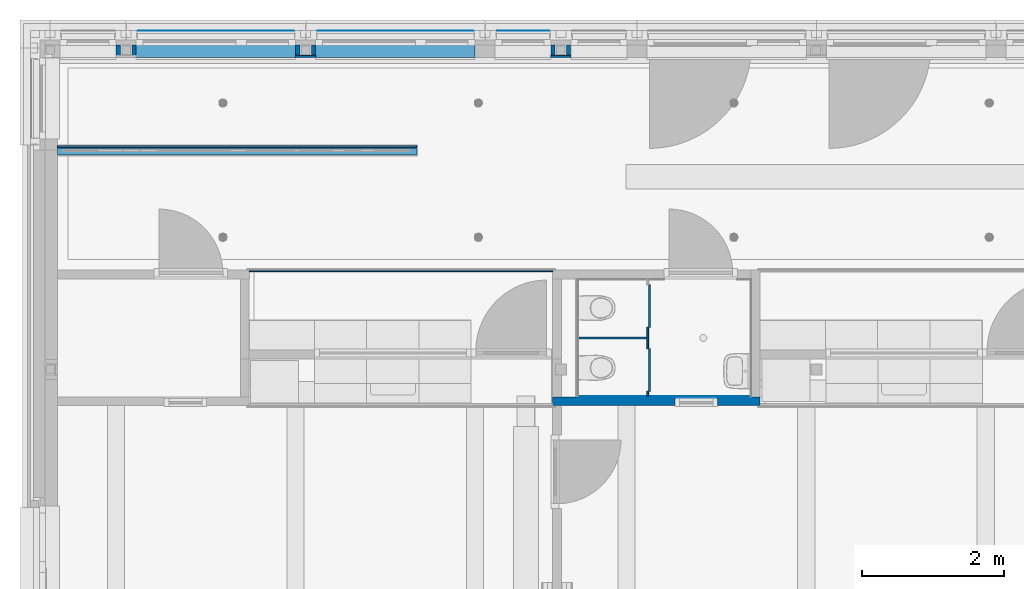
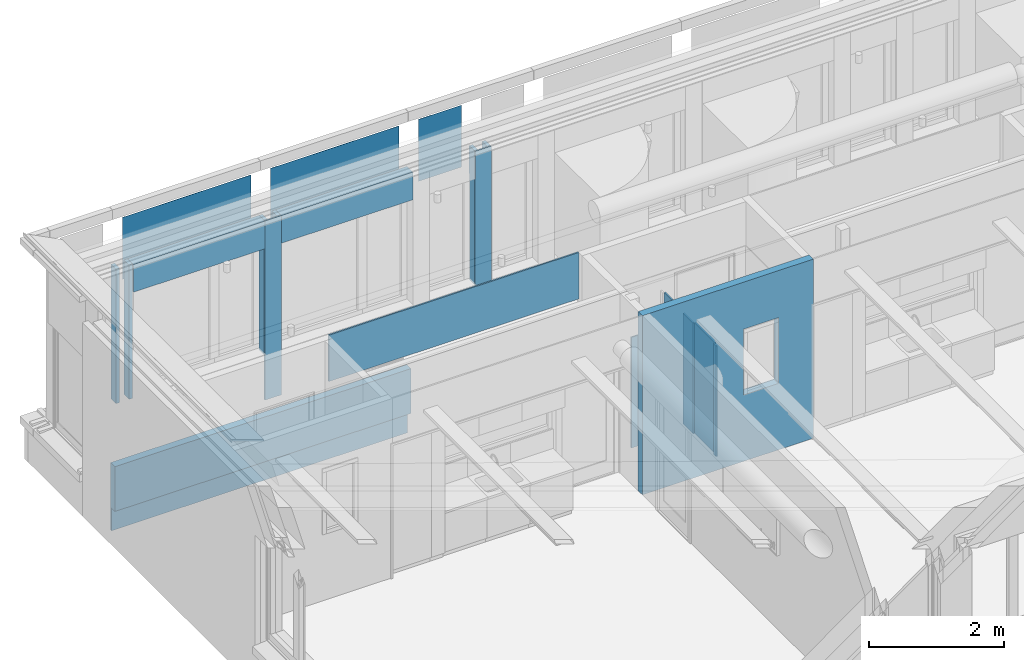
# One storey, part 46 of 128: 23 walls, 23 openings.
"""IFC2X3 building model written with IfcOpenShell, lengths in millimetres."""

from ifc_helpers import new_model, entity, si_unit, converted_unit, derived_unit, direction, frame, frame_2d, origin, origin_2d_with_axis, place, context, subcontext, project, spatial, polyline, rectangle, extrude, clip, bounded_halfspace, material, layer, layer_set, layer_usage, type_object, element, save


model = new_model("IFC2X3")

# Units and contexts
model_context = context("Model", 3, precision=0.01, world=origin(), true_north=direction((6.123031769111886e-17, 1.0)))
body_context = subcontext(model_context, "Body", "Model", "MODEL_VIEW")
ifc_project = project(units=[si_unit("LENGTHUNIT", "METRE", prefix="MILLI"), si_unit("AREAUNIT", "SQUARE_METRE"), si_unit("VOLUMEUNIT", "CUBIC_METRE"), converted_unit("PLANEANGLEUNIT", "DEGREE", entity("IfcRatioMeasure", 0.017453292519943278), si_unit("PLANEANGLEUNIT", "RADIAN"), dimensions=[0, 0, 0, 0, 0, 0, 0]), si_unit("MASSUNIT", "GRAM", prefix="KILO"), derived_unit("MASSDENSITYUNIT", [(si_unit("MASSUNIT", "GRAM", prefix="KILO"), 1), (si_unit("LENGTHUNIT", "METRE"), -3)]), derived_unit("IONCONCENTRATIONUNIT", [(si_unit("MASSUNIT", "GRAM", prefix="KILO"), 1), (si_unit("LENGTHUNIT", "METRE"), -3)]), derived_unit("MOMENTOFINERTIAUNIT", [(si_unit("LENGTHUNIT", "METRE"), 4)]), si_unit("TIMEUNIT", "SECOND"), si_unit("FREQUENCYUNIT", "HERTZ"), si_unit("THERMODYNAMICTEMPERATUREUNIT", "DEGREE_CELSIUS"), derived_unit("THERMALTRANSMITTANCEUNIT", [(si_unit("MASSUNIT", "GRAM", prefix="KILO"), 1), (si_unit("THERMODYNAMICTEMPERATUREUNIT", "KELVIN"), -1), (si_unit("TIMEUNIT", "SECOND"), -3)]), derived_unit("THERMALCONDUCTANCEUNIT", [(si_unit("MASSUNIT", "GRAM", prefix="KILO"), 1), (si_unit("THERMODYNAMICTEMPERATUREUNIT", "KELVIN"), -1), (si_unit("TIMEUNIT", "SECOND"), -3), (si_unit("LENGTHUNIT", "METRE"), 1)]), derived_unit("VOLUMETRICFLOWRATEUNIT", [(si_unit("LENGTHUNIT", "METRE"), 3), (si_unit("TIMEUNIT", "SECOND"), -1)]), derived_unit("MASSFLOWRATEUNIT", [(si_unit("MASSUNIT", "GRAM", prefix="KILO"), 1), (si_unit("TIMEUNIT", "SECOND"), -1)]), derived_unit("ROTATIONALFREQUENCYUNIT", [(si_unit("TIMEUNIT", "SECOND"), -1)]), si_unit("ELECTRICCURRENTUNIT", "AMPERE"), si_unit("ELECTRICVOLTAGEUNIT", "VOLT"), si_unit("POWERUNIT", "WATT"), si_unit("FORCEUNIT", "NEWTON", prefix="KILO"), si_unit("ILLUMINANCEUNIT", "LUX"), si_unit("LUMINOUSFLUXUNIT", "LUMEN"), si_unit("LUMINOUSINTENSITYUNIT", "CANDELA"), derived_unit("USERDEFINED", [(si_unit("MASSUNIT", "GRAM", prefix="KILO"), -1), (si_unit("LENGTHUNIT", "METRE"), -2), (si_unit("TIMEUNIT", "SECOND"), 3), (si_unit("LUMINOUSFLUXUNIT", "LUMEN"), 1)]), derived_unit("USERDEFINED", [(si_unit("MASSUNIT", "GRAM", prefix="KILO"), 1), (si_unit("TIMEUNIT", "SECOND"), -3), (si_unit("LENGTHUNIT", "METRE"), 3), (si_unit("ELECTRICCURRENTUNIT", "AMPERE"), -2)]), derived_unit("SOUNDPOWERUNIT", [(si_unit("MASSUNIT", "GRAM", prefix="KILO"), 1), (si_unit("TIMEUNIT", "SECOND"), -3), (si_unit("LENGTHUNIT", "METRE"), 2)]), derived_unit("SOUNDPRESSUREUNIT", [(si_unit("MASSUNIT", "GRAM", prefix="KILO"), 1), (si_unit("LENGTHUNIT", "METRE"), -1), (si_unit("TIMEUNIT", "SECOND"), -2)]), derived_unit("LINEARVELOCITYUNIT", [(si_unit("LENGTHUNIT", "METRE"), 1), (si_unit("TIMEUNIT", "SECOND"), -1)]), si_unit("PRESSUREUNIT", "PASCAL"), derived_unit("USERDEFINED", [(si_unit("MASSUNIT", "GRAM", prefix="KILO"), 1), (si_unit("LENGTHUNIT", "METRE"), -2), (si_unit("TIMEUNIT", "SECOND"), -2)]), derived_unit("LINEARFORCEUNIT", [(si_unit("MASSUNIT", "GRAM", prefix="KILO"), 1), (si_unit("TIMEUNIT", "SECOND"), -2)]), derived_unit("PLANARFORCEUNIT", [(si_unit("MASSUNIT", "GRAM", prefix="KILO"), 1), (si_unit("LENGTHUNIT", "METRE"), -1), (si_unit("TIMEUNIT", "SECOND"), -2)]), derived_unit("SPECIFICHEATCAPACITYUNIT", [(si_unit("THERMODYNAMICTEMPERATUREUNIT", "KELVIN"), -1), (si_unit("LENGTHUNIT", "METRE"), 2), (si_unit("TIMEUNIT", "SECOND"), -2)]), derived_unit("HEATINGVALUEUNIT", [(si_unit("LENGTHUNIT", "METRE"), 2), (si_unit("TIMEUNIT", "SECOND"), -2)]), derived_unit("VAPORPERMEABILITYUNIT", [(si_unit("LENGTHUNIT", "METRE"), -1), (si_unit("TIMEUNIT", "SECOND"), 1)]), derived_unit("DYNAMICVISCOSITYUNIT", [(si_unit("MASSUNIT", "GRAM", prefix="KILO"), 1), (si_unit("TIMEUNIT", "SECOND"), -1), (si_unit("LENGTHUNIT", "METRE"), -1)]), derived_unit("THERMALEXPANSIONCOEFFICIENTUNIT", [(si_unit("THERMODYNAMICTEMPERATUREUNIT", "KELVIN"), -1)]), derived_unit("MODULUSOFELASTICITYUNIT", [(si_unit("MASSUNIT", "GRAM", prefix="KILO"), 1), (si_unit("LENGTHUNIT", "METRE"), -1), (si_unit("TIMEUNIT", "SECOND"), -2)]), derived_unit("ISOTHERMALMOISTURECAPACITYUNIT", [(si_unit("LENGTHUNIT", "METRE"), 3), (si_unit("MASSUNIT", "GRAM", prefix="KILO"), -1)]), derived_unit("MOISTUREDIFFUSIVITYUNIT", [(si_unit("TIMEUNIT", "SECOND"), -1), (si_unit("LENGTHUNIT", "METRE"), 2)])], contexts=[model_context])

# Site, building, storey
site_placement = place(None, frame((0.0, 300.0, 0.0)))
site = spatial("IfcSite", under=ifc_project, at=site_placement, Name="<Kadastrale nummers>", CompositionType="ELEMENT")
building_placement = place(site_placement, origin())
building = spatial("IfcBuilding", under=site, at=building_placement, CompositionType="ELEMENT")
storey_placement = place(building_placement, frame((0.0, 0.0, 3560.0000331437)))
storey = spatial("IfcBuildingStorey", under=building, at=storey_placement, Name="01 eerste verdieping", CompositionType="ELEMENT", Elevation=3560.0000331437)

# Wall
ifc_material_1 = material(Name="ISR_Gips")
ifc_layer_1 = layer(ifc_material_1, 1.0)
ifc_material_2 = material(Name="ISR_Binnenwand")
ifc_layer_2 = layer(ifc_material_2, 123.0)
ifc_layer_3 = layer(ifc_material_1, 1.0)
ifc_layer_set_1 = layer_set([ifc_layer_1, ifc_layer_2, ifc_layer_3], Name="Basic Wall:22_DAT_binnenwand_125")
ifc_layer_usage_1 = layer_usage(ifc_layer_set_1, "AXIS2", "NEGATIVE", 62.50000000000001)
wall_type_1 = type_object("IfcWallType", Name="Basic Wall:22_DAT_binnenwand_125", PredefinedType="STANDARD", material=ifc_layer_set_1)
wall_1_placement = place(storey_placement, frame((3100.0, 48387.49999999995, 90.00000187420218)))
element("IfcWallStandardCase", 1, at=wall_1_placement, inside=storey, type_object=wall_type_1, material=ifc_layer_usage_1, Name="Basic Wall:22_DAT_binnenwand_125", ObjectType="Basic Wall:22_DAT_binnenwand_125", context=body_context, shape_type="SweptSolid", body=[
    extrude(rectangle(XDim=5065.000000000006, YDim=125.00000000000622, at=frame_2d((2532.500000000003, -6.039613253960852e-14), x_axis=(-1.0, 0.0))), origin(), (0.0, 0.0, 1.0), 809.9999649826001),
])

# Wall, opening
ifc_layer_usage_2 = layer_usage(ifc_layer_set_1, "AXIS2", "POSITIVE", -62.50000000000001)
wall_2_placement = place(storey_placement, frame((10080.0, 44852.500000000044, 90.00000187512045)))
wall_2 = element("IfcWallStandardCase", 2, at=wall_2_placement, inside=storey, type_object=wall_type_1, material=ifc_layer_usage_2, Name="Basic Wall:22_DAT_binnenwand_125", ObjectType="Basic Wall:22_DAT_binnenwand_125", context=body_context, shape_type="SweptSolid", body=[
    extrude(rectangle(XDim=2924.9999999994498, YDim=125.00000000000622, at=frame_2d((1462.4999999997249, -1.0302869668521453e-12), x_axis=(-1.0, 0.0))), origin(), (0.0, 0.0, 1.0), 3240.0000290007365),
])
opening_1_placement = place(wall_2_placement, origin())
element("IfcOpeningElement", 3, at=opening_1_placement, cuts=wall_2, Name="Basic Wall:22_DAT_binnenwand_125", ObjectType="Opening", context=body_context, shape_type="SweptSolid", body=[
    extrude(rectangle(XDim=1190.0000000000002, YDim=599.9999999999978, at=frame_2d((0.0, 0.0), x_axis=(0.0, 1.0))), frame((2025.0, -214.89999999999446, 1795.0), z_axis=(0.0, 1.0, 0.0), x_axis=(-1.0, 0.0, 0.0)), (0.0, 0.0, 1.0), 429.79999999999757),
])

# Walls
ifc_layer_4 = layer(ifc_material_1, 1.0)
ifc_layer_5 = layer(ifc_material_2, 23.0)
ifc_layer_6 = layer(ifc_material_1, 1.0)
ifc_layer_set_2 = layer_set([ifc_layer_4, ifc_layer_5, ifc_layer_6], Name="Basic Wall:22_DAT_binnenwand_25")
ifc_layer_usage_3 = layer_usage(ifc_layer_set_2, "AXIS2", "NEGATIVE", 12.499999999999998)
wall_type_2 = type_object("IfcWallType", Name="Basic Wall:22_DAT_binnenwand_25", PredefinedType="STANDARD", material=ifc_layer_set_2)
wall_3_placement = place(storey_placement, frame((5807.500000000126, 46687.49999999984, 2490.000024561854)))
element("IfcWallStandardCase", 4, at=wall_3_placement, inside=storey, type_object=wall_type_2, material=ifc_layer_usage_3, Name="Basic Wall:22_DAT_binnenwand_25", ObjectType="Basic Wall:22_DAT_binnenwand_25", context=body_context, shape_type="SweptSolid", body=[
    extrude(rectangle(XDim=4272.50000000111, YDim=24.999999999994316, at=frame_2d((2136.250000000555, -6.217248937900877e-14), x_axis=(-1.0, 0.0))), origin(), (0.0, 0.0, 1.0), 839.9999773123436),
])
ifc_layer_usage_4 = layer_usage(ifc_layer_set_2, "AXIS2", "POSITIVE", -12.499999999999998)
wall_4_placement = place(storey_placement, frame((3100.0, 48437.499999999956, -320.00000414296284)))
element("IfcWallStandardCase", 5, at=wall_4_placement, inside=storey, type_object=wall_type_2, material=ifc_layer_usage_4, Name="Basic Wall:22_DAT_binnenwand_25", ObjectType="Basic Wall:22_DAT_binnenwand_25", context=body_context, shape_type="SweptSolid", body=[
    extrude(rectangle(XDim=5065.0000000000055, YDim=24.999999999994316, at=frame_2d((2532.5000000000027, 6.128431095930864e-14), x_axis=(-1.0, 0.0))), origin(), (0.0, 0.0, 1.0), 410.0000060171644),
])
wall_5_placement = place(storey_placement, frame((10333.747222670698, 49712.499999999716, 90.00000187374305), z_axis=(0.0, 0.0, 1.0), x_axis=(-1.0, 0.0, 0.0)))
element("IfcWallStandardCase", 6, at=wall_5_placement, inside=storey, type_object=wall_type_2, material=ifc_layer_usage_4, Name="Basic Wall:22_DAT_binnenwand_25", ObjectType="Basic Wall:22_DAT_binnenwand_25", context=body_context, shape_type="Clipping", body=[
    clip(clip(extrude(rectangle(XDim=279.99999999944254, YDim=24.999999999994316, at=frame_2d((139.9999999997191, 0.0), x_axis=(-1.0, 0.0))), origin(), (0.0, 0.0, 1.0), 3240.000000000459), bounded_halfspace(frame((273.7472226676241, 12.499999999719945, 2739.9999649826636), z_axis=(0.0, 0.0, -1.0), x_axis=(0.0, -1.0, 0.0)), True, frame((273.7472226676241, 12.499999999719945, 2739.9999649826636), z_axis=(0.0, 0.0, -1.0), x_axis=(0.0, -1.0, 0.0)), polyline([(0.0, 0.0), (0.0, -6.252777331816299), (25.0, -6.2527773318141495), (25.0, 0.0), (0.0, 0.0)]))), bounded_halfspace(frame((273.74722266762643, -12.500000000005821, 2739.9999649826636), z_axis=(-1.0, 0.0, 0.0), x_axis=(0.0, -1.0, 0.0)), True, frame((273.74722266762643, -12.500000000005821, 2739.9999649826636), z_axis=(-1.0, 0.0, 0.0), x_axis=(0.0, -1.0, 0.0)), polyline([(0.0, 0.0), (0.0, 500.0000350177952), (-25.0, 500.0000350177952), (-25.0, 0.0), (0.0, 0.0)]))),
])
wall_6_placement = place(storey_placement, frame((6740.0, 49712.49999999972, 90.00000187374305), z_axis=(0.0, 0.0, 1.0), x_axis=(-1.0, 0.0, 0.0)))
element("IfcWallStandardCase", 7, at=wall_6_placement, inside=storey, type_object=wall_type_2, material=ifc_layer_usage_4, Name="Basic Wall:22_DAT_binnenwand_25", ObjectType="Basic Wall:22_DAT_binnenwand_25", context=body_context, shape_type="SweptSolid", body=[
    extrude(rectangle(XDim=279.9999999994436, YDim=24.999999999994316, at=frame_2d((139.9999999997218, 0.0), x_axis=(-1.0, 0.0))), origin(), (0.0, 0.0, 1.0), 3240.000000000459),
])
ifc_material_3 = material(Name="ISR_Kunststof_grijs")
ifc_layer_7 = layer(ifc_material_3, 25.0)
ifc_layer_set_3 = layer_set([ifc_layer_7], Name="Basic Wall:43_DAT_sanitairewand")
ifc_layer_usage_5 = layer_usage(ifc_layer_set_3, "AXIS2", "POSITIVE", -12.500000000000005)
wall_type_3 = type_object("IfcWallType", Name="Basic Wall:43_DAT_sanitairewand", PredefinedType="STANDARD", material=ifc_layer_set_3)
wall_7_placement = place(storey_placement, frame((10435.0, 45745.0, 240.00000187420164)))
element("IfcWallStandardCase", 8, at=wall_7_placement, inside=storey, type_object=wall_type_3, material=ifc_layer_usage_5, Name="Basic Wall:43_DAT_sanitairewand", ObjectType="Basic Wall:43_DAT_sanitairewand", context=body_context, shape_type="SweptSolid", body=[
    extrude(rectangle(XDim=975.0000000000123, YDim=24.999999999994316, at=frame_2d((487.50000000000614, -6.465938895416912e-13), x_axis=(-1.0, 0.0))), origin(), (0.0, 0.0, 1.0), 2000.0000000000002),
])
wall_8_placement = place(storey_placement, frame((11447.4999999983, 45595.0, 240.00000187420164), z_axis=(0.0, 0.0, 1.0), x_axis=(0.0, -1.0, 0.0)))
element("IfcWallStandardCase", 9, at=wall_8_placement, inside=storey, type_object=wall_type_3, material=ifc_layer_usage_5, Name="Basic Wall:43_DAT_sanitairewand", ObjectType="Basic Wall:43_DAT_sanitairewand", context=body_context, shape_type="SweptSolid", body=[
    extrude(rectangle(XDim=600.0000000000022, YDim=24.99999999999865, at=frame_2d((300.0000000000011, -3.6148861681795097e-13), x_axis=(-1.0, 0.0))), origin(), (0.0, 0.0, 1.0), 2000.0000000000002),
])
wall_9_placement = place(storey_placement, frame((11422.499999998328, 45895.0, 240.00000187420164), z_axis=(0.0, 0.0, 1.0), x_axis=(0.0, -1.0, 0.0)))
element("IfcWallStandardCase", 10, at=wall_9_placement, inside=storey, type_object=wall_type_3, material=ifc_layer_usage_5, Name="Basic Wall:43_DAT_sanitairewand", ObjectType="Basic Wall:43_DAT_sanitairewand", context=body_context, shape_type="SweptSolid", body=[
    extrude(rectangle(XDim=300.0000000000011, YDim=24.999999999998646, at=frame_2d((150.00000000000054, 3.6060043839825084e-13), x_axis=(-1.0, 0.0))), origin(), (0.0, 0.0, 1.0), 2000.0000000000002),
])
wall_10_placement = place(storey_placement, frame((11422.499999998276, 44995.0, 240.00000187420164), z_axis=(0.0, 0.0, 1.0), x_axis=(0.0, -1.0, 0.0)))
element("IfcWallStandardCase", 11, at=wall_10_placement, inside=storey, type_object=wall_type_3, material=ifc_layer_usage_5, Name="Basic Wall:43_DAT_sanitairewand", ObjectType="Basic Wall:43_DAT_sanitairewand", context=body_context, shape_type="SweptSolid", body=[
    extrude(rectangle(XDim=79.99999999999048, YDim=24.99999999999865, at=frame_2d((39.99999999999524, 7.291944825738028e-13), x_axis=(-1.0, 0.0))), origin(), (0.0, 0.0, 1.0), 2000.0000000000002),
])
wall_11_placement = place(storey_placement, frame((11447.499999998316, 46495.0, 240.00000187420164), z_axis=(0.0, 0.0, 1.0), x_axis=(0.0, -1.0, 0.0)))
element("IfcWallStandardCase", 12, at=wall_11_placement, inside=storey, type_object=wall_type_3, material=ifc_layer_usage_5, Name="Basic Wall:43_DAT_sanitairewand", ObjectType="Basic Wall:43_DAT_sanitairewand", context=body_context, shape_type="SweptSolid", body=[
    extrude(rectangle(XDim=600.0000000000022, YDim=24.99999999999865, at=frame_2d((300.0000000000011, -3.6148861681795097e-13), x_axis=(-1.0, 0.0))), origin(), (0.0, 0.0, 1.0), 2000.0000000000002),
])
ifc_material_4 = material(Name="STAAL_RAL 7006")
ifc_layer_8 = layer(ifc_material_4, 2.0)
ifc_layer_set_4 = layer_set([ifc_layer_8], Name="Basic Wall:21_DAT_zetwerk_2")
ifc_layer_usage_6 = layer_usage(ifc_layer_set_4, "AXIS2", "NEGATIVE", 1.000000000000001)
wall_type_4 = type_object("IfcWallType", Name="Basic Wall:21_DAT_zetwerk_2", PredefinedType="STANDARD", material=ifc_layer_set_4)
for number, where, name in (
    (13, (6768.0, 50071.0, 2829.9999668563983), "Basic Wall:21_DAT_zetwerk_2"),
    (14, (4238.0, 50071.0, 2829.9999668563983), "Basic Wall:21_DAT_zetwerk_2"),
):
    element("IfcWallStandardCase", number, at=place(storey_placement, frame(where)), inside=storey, type_object=wall_type_4, material=ifc_layer_usage_6, Name=name, ObjectType="Basic Wall:21_DAT_zetwerk_2", context=body_context, shape_type="SweptSolid", body=[
        extrude(rectangle(XDim=2194.0000000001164, YDim=1.9999999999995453, at=frame_2d((1097.0000000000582, 1.4378498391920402e-12), x_axis=(-1.0, 0.0))), origin(), (0.0, 0.0, 1.0), 1120.0000000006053),
    ])
wall_12_placement = place(storey_placement, frame((9298.0, 50071.0, 2829.9999668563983)))
element("IfcWallStandardCase", 15, at=wall_12_placement, inside=storey, type_object=wall_type_4, material=ifc_layer_usage_6, Name="Basic Wall:21_DAT_zetwerk_2", ObjectType="Basic Wall:21_DAT_zetwerk_2", context=body_context, shape_type="SweptSolid", body=[
    extrude(rectangle(XDim=733.9999999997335, YDim=1.9999999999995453, at=frame_2d((366.99999999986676, 0.0), x_axis=(-1.0, 0.0))), origin(), (0.0, 0.0, 1.0), 1120.0000000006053),
])
ifc_layer_9 = layer(ifc_material_1, 12.5)
ifc_layer_10 = layer(ifc_material_1, 12.5)
ifc_material_5 = material(Name="ISR_Dak_isolatie(198)")
ifc_layer_11 = layer(ifc_material_5, 140.0)
ifc_material_6 = material(Name="ISR_Multiplex")
ifc_layer_12 = layer(ifc_material_6, 10.0)
ifc_layer_set_5 = layer_set([ifc_layer_9, ifc_layer_10, ifc_layer_11, ifc_layer_12], Name="Basic Wall:21_DAT_Hekwerk 175")
ifc_layer_usage_7 = layer_usage(ifc_layer_set_5, "AXIS2", "POSITIVE", -87.5)
wall_type_5 = type_object("IfcWallType", Name="Basic Wall:21_DAT_Hekwerk 175", PredefinedType="STANDARD", material=ifc_layer_set_5)
wall_13_placement = place(storey_placement, frame((6740.0, 49787.50000000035, 2830.0)))
element("IfcWallStandardCase", 16, at=wall_13_placement, inside=storey, type_object=wall_type_5, material=ifc_layer_usage_7, Name="Basic Wall:21_DAT_Hekwerk 175", ObjectType="Basic Wall:21_DAT_Hekwerk 175", context=body_context, shape_type="SweptSolid", body=[
    extrude(rectangle(XDim=2249.99999999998, YDim=174.99999999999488, at=frame_2d((1124.99999999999, 1.5702994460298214e-12), x_axis=(-1.0, 0.0))), origin(), (0.0, 0.0, 1.0), 500.00003087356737),
])
wall_14_placement = place(storey_placement, frame((4210.0, 49787.50000000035, 2830.0)))
element("IfcWallStandardCase", 17, at=wall_14_placement, inside=storey, type_object=wall_type_5, material=ifc_layer_usage_7, Name="Basic Wall:21_DAT_Hekwerk 175", ObjectType="Basic Wall:21_DAT_Hekwerk 175", context=body_context, shape_type="SweptSolid", body=[
    extrude(rectangle(XDim=2249.9999999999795, YDim=174.99999999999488, at=frame_2d((1124.9999999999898, 1.5702994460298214e-12), x_axis=(-1.0, 0.0))), origin(), (0.0, 0.0, 1.0), 500.00003087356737),
])

# Wall, opening
ifc_material_7 = material(Name="ISR_Tegels_grijs_150x150")
ifc_layer_13 = layer(ifc_material_7, 10.0)
ifc_layer_set_6 = layer_set([ifc_layer_13], Name="Basic Wall:43_DAT_Wandtegelwerk")
ifc_layer_usage_8 = layer_usage(ifc_layer_set_6, "AXIS2", "POSITIVE", -5.0)
wall_type_6 = type_object("IfcWallType", Name="Basic Wall:43_DAT_Wandtegelwerk", PredefinedType="STANDARD", material=ifc_layer_set_6)
wall_15_placement = place(storey_placement, frame((12870.0, 44920.0, 90.00000187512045), z_axis=(0.0, 0.0, 1.0), x_axis=(-1.0, 0.0, 0.0)))
wall_15 = element("IfcWallStandardCase", 18, at=wall_15_placement, inside=storey, type_object=wall_type_6, material=ifc_layer_usage_8, Name="Basic Wall:43_DAT_Wandtegelwerk", ObjectType="Basic Wall:43_DAT_Wandtegelwerk", context=body_context, shape_type="SweptSolid", body=[
    extrude(rectangle(XDim=2435.0000000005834, YDim=9.999999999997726, at=frame_2d((1217.5000000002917, 1.7155166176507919e-12), x_axis=(-1.0, 0.0))), origin(), (0.0, 0.0, 1.0), 2450.0000226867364),
])
opening_2_placement = place(wall_15_placement, origin())
element("IfcOpeningElement", 19, at=opening_2_placement, cuts=wall_15, Name="Basic Wall:43_DAT_Wandtegelwerk", ObjectType="Opening", context=body_context, shape_type="SweptSolid", body=[
    extrude(rectangle(XDim=1190.0000000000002, YDim=599.9999999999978, at=origin_2d_with_axis()), frame((765.0, -157.40000000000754, 1795.0), z_axis=(0.0, 1.0, 0.0), x_axis=(0.0, 0.0, 1.0)), (0.0, 0.0, 1.0), 314.79999999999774),
])

ifc_layer_14 = layer(ifc_material_5, 140.0)
ifc_layer_15 = layer(ifc_material_6, 10.0)
ifc_layer_set_7 = layer_set([ifc_layer_14, ifc_layer_15], Name="Basic Wall:21_DAT_Hekwerk 150")
ifc_layer_usage_9 = layer_usage(ifc_layer_set_7, "AXIS2", "NEGATIVE", 75.0)
wall_type_7 = type_object("IfcWallType", Name="Basic Wall:21_DAT_Hekwerk 150", PredefinedType="STANDARD", material=ifc_layer_set_7)
wall_16_placement = place(storey_placement, frame((10113.747222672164, 49800.0, 900.0000018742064), z_axis=(0.0, 0.0, 1.0), x_axis=(-1.0, 0.0, 0.0)))
wall_16 = element("IfcWallStandardCase", 20, at=wall_16_placement, inside=storey, type_object=wall_type_7, material=ifc_layer_usage_9, Name="Basic Wall:21_DAT_Hekwerk 150", ObjectType="Basic Wall:21_DAT_Hekwerk 150", context=body_context, shape_type="SweptSolid", body=[
    extrude(rectangle(XDim=60.00000000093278, YDim=150.00000000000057, at=frame_2d((30.00000000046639, 5.968558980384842e-13), x_axis=(-1.0, 0.0))), origin(), (0.0, 0.0, 1.0), 2429.9999999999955),
])
opening_3_placement = place(wall_16_placement, origin())
element("IfcOpeningElement", 21, at=opening_3_placement, cuts=wall_16, Name="Basic Wall:21_DAT_Hekwerk 150", ObjectType="Opening", context=body_context, shape_type="SweptSolid", body=[
    extrude(rectangle(XDim=1929.9999649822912, YDim=789.999999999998, at=origin_2d_with_axis()), frame((448.7472226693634, -227.4000000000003, 964.9999824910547), z_axis=(0.0, 1.0, 0.0), x_axis=(0.0, 0.0, 1.0)), (0.0, 0.0, 1.0), 454.8000000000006),
])

# Wall
ifc_layer_usage_10 = layer_usage(ifc_layer_set_7, "AXIS2", "POSITIVE", -75.0)
wall_17_placement = place(storey_placement, frame((10273.747222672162, 49800.0, 900.0000018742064)))
element("IfcWallStandardCase", 22, at=wall_17_placement, inside=storey, type_object=wall_type_7, material=ifc_layer_usage_10, Name="Basic Wall:21_DAT_Hekwerk 150", ObjectType="Basic Wall:21_DAT_Hekwerk 150", context=body_context, shape_type="SweptSolid", body=[
    extrude(rectangle(XDim=59.99999999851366, YDim=150.00000000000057, at=frame_2d((29.99999999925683, 9.592326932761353e-13), x_axis=(-1.0, 0.0))), origin(), (0.0, 0.0, 1.0), 2429.9999999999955),
])

# Wall, openings
wall_18_placement = place(storey_placement, frame((3990.0, 49800.0, 900.0000018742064), z_axis=(0.0, 0.0, 1.0), x_axis=(-1.0, 0.0, 0.0)))
wall_18 = element("IfcWallStandardCase", 23, at=wall_18_placement, inside=storey, type_object=wall_type_7, material=ifc_layer_usage_9, Name="Basic Wall:21_DAT_Hekwerk 150", ObjectType="Basic Wall:21_DAT_Hekwerk 150", context=body_context, shape_type="SweptSolid", body=[
    extrude(rectangle(XDim=60.000000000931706, YDim=150.00000000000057, at=frame_2d((30.000000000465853, 5.968558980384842e-13), x_axis=(-1.0, 0.0))), origin(), (0.0, 0.0, 1.0), 2429.9999999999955),
])
opening_4_placement = place(wall_18_placement, origin())
element("IfcOpeningElement", 24, at=opening_4_placement, cuts=wall_18, Name="Basic Wall:21_DAT_Hekwerk 150", ObjectType="Opening", context=body_context, shape_type="SweptSolid", body=[
    extrude(rectangle(XDim=1929.9999649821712, YDim=789.9999999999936, at=frame_2d((5.684341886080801e-13, 0.0), x_axis=(1.0, 0.0))), frame((-36904.0, -227.4000000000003, 964.9999824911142), z_axis=(0.0, 1.0, 0.0), x_axis=(0.0, 0.0, 1.0)), (0.0, 0.0, 1.0), 454.8000000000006),
])
opening_5_placement = place(wall_18_placement, origin())
element("IfcOpeningElement", 25, at=opening_5_placement, cuts=wall_18, Name="Basic Wall:21_DAT_Hekwerk 150", ObjectType="Opening", context=body_context, shape_type="SweptSolid", body=[
    extrude(rectangle(XDim=1929.9999649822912, YDim=790.0000000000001, at=origin_2d_with_axis()), frame((455.0, -227.39999999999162, 964.9999824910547), z_axis=(0.0, 1.0, 0.0), x_axis=(0.0, 0.0, 1.0)), (0.0, 0.0, 1.0), 454.8000000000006),
])
opening_6_placement = place(wall_18_placement, origin())
element("IfcOpeningElement", 26, at=opening_6_placement, cuts=wall_18, Name="Basic Wall:21_DAT_Hekwerk 150", ObjectType="Opening", context=body_context, shape_type="SweptSolid", body=[
    extrude(rectangle(XDim=1929.9999649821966, YDim=2249.9999999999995, at=frame_2d((-2.8421709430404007e-13, 0.0), x_axis=(1.0, 0.0))), frame((-25475.0, -227.4000000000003, 964.9999824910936), z_axis=(0.0, 1.0, 0.0), x_axis=(0.0, 0.0, 1.0)), (0.0, 0.0, 1.0), 454.8000000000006),
])
opening_7_placement = place(wall_18_placement, origin())
element("IfcOpeningElement", 27, at=opening_7_placement, cuts=wall_18, Name="Basic Wall:21_DAT_Hekwerk 150", ObjectType="Opening", context=body_context, shape_type="SweptSolid", body=[
    extrude(rectangle(XDim=1929.9999649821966, YDim=2249.9999999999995, at=frame_2d((-2.8421709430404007e-13, 0.0), x_axis=(1.0, 0.0))), frame((-22945.0, -227.4000000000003, 964.9999824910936), z_axis=(0.0, 1.0, 0.0), x_axis=(0.0, 0.0, 1.0)), (0.0, 0.0, 1.0), 454.8000000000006),
])
opening_8_placement = place(wall_18_placement, origin())
element("IfcOpeningElement", 28, at=opening_8_placement, cuts=wall_18, Name="Basic Wall:21_DAT_Hekwerk 150", ObjectType="Opening", context=body_context, shape_type="SweptSolid", body=[
    extrude(rectangle(XDim=1929.9999649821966, YDim=2249.9999999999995, at=frame_2d((-2.8421709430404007e-13, 0.0), x_axis=(1.0, 0.0))), frame((-18275.0, -227.4000000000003, 964.9999824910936), z_axis=(0.0, 1.0, 0.0), x_axis=(0.0, 0.0, 1.0)), (0.0, 0.0, 1.0), 454.8000000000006),
])
opening_9_placement = place(wall_18_placement, origin())
element("IfcOpeningElement", 29, at=opening_9_placement, cuts=wall_18, Name="Basic Wall:21_DAT_Hekwerk 150", ObjectType="Opening", context=body_context, shape_type="SweptSolid", body=[
    extrude(rectangle(XDim=1929.9999649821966, YDim=2250.0000000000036, at=frame_2d((-2.8421709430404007e-13, 2.1600499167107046e-12), x_axis=(1.0, 0.0))), frame((-15745.0, -227.4000000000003, 964.9999824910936), z_axis=(0.0, 1.0, 0.0), x_axis=(0.0, 0.0, 1.0)), (0.0, 0.0, 1.0), 454.8000000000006),
])
opening_10_placement = place(wall_18_placement, origin())
element("IfcOpeningElement", 30, at=opening_10_placement, cuts=wall_18, Name="Basic Wall:21_DAT_Hekwerk 150", ObjectType="Opening", context=body_context, shape_type="SweptSolid", body=[
    extrude(rectangle(XDim=1929.9999649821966, YDim=2249.9999999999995, at=frame_2d((-2.8421709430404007e-13, 0.0), x_axis=(1.0, 0.0))), frame((-11075.0, -227.39999999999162, 964.9999824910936), z_axis=(0.0, 1.0, 0.0), x_axis=(0.0, 0.0, 1.0)), (0.0, 0.0, 1.0), 454.8000000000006),
])
opening_11_placement = place(wall_18_placement, origin())
element("IfcOpeningElement", 31, at=opening_11_placement, cuts=wall_18, Name="Basic Wall:21_DAT_Hekwerk 150", ObjectType="Opening", context=body_context, shape_type="SweptSolid", body=[
    extrude(rectangle(XDim=1929.9999649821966, YDim=2249.9999999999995, at=frame_2d((-2.8421709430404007e-13, 0.0), x_axis=(1.0, 0.0))), frame((-8545.0, -227.40000000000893, 964.9999824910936), z_axis=(0.0, 1.0, 0.0), x_axis=(0.0, 0.0, 1.0)), (0.0, 0.0, 1.0), 454.8000000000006),
])
opening_12_placement = place(wall_18_placement, origin())
element("IfcOpeningElement", 32, at=opening_12_placement, cuts=wall_18, Name="Basic Wall:21_DAT_Hekwerk 150", ObjectType="Opening", context=body_context, shape_type="SweptSolid", body=[
    extrude(rectangle(XDim=1929.9999649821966, YDim=2249.9999999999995, at=frame_2d((-2.8421709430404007e-13, 0.0), x_axis=(1.0, 0.0))), frame((-1345.0, -227.4000000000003, 964.9999824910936), z_axis=(0.0, 1.0, 0.0), x_axis=(0.0, 0.0, 1.0)), (0.0, 0.0, 1.0), 454.8000000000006),
])
opening_13_placement = place(wall_18_placement, origin())
element("IfcOpeningElement", 33, at=opening_13_placement, cuts=wall_18, Name="Basic Wall:21_DAT_Hekwerk 150", ObjectType="Opening", context=body_context, shape_type="SweptSolid", body=[
    extrude(rectangle(XDim=1929.9999649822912, YDim=789.999999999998, at=frame_2d((0.0, 2.1600499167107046e-12), x_axis=(1.0, 0.0))), frame((-28345.0, -227.4000000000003, 964.9999824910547), z_axis=(0.0, 1.0, 0.0), x_axis=(0.0, 0.0, 1.0)), (0.0, 0.0, 1.0), 454.8000000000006),
])
opening_14_placement = place(wall_18_placement, origin())
element("IfcOpeningElement", 34, at=opening_14_placement, cuts=wall_18, Name="Basic Wall:21_DAT_Hekwerk 150", ObjectType="Opening", context=body_context, shape_type="SweptSolid", body=[
    extrude(rectangle(XDim=1929.9999649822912, YDim=789.999999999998, at=frame_2d((0.0, -2.1600499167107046e-12), x_axis=(1.0, 0.0))), frame((-27275.0, -227.4000000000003, 964.9999824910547), z_axis=(0.0, 1.0, 0.0), x_axis=(0.0, 0.0, 1.0)), (0.0, 0.0, 1.0), 454.8000000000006),
])
opening_15_placement = place(wall_18_placement, origin())
element("IfcOpeningElement", 35, at=opening_15_placement, cuts=wall_18, Name="Basic Wall:21_DAT_Hekwerk 150", ObjectType="Opening", context=body_context, shape_type="SweptSolid", body=[
    extrude(rectangle(XDim=1929.9999649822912, YDim=789.999999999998, at=frame_2d((0.0, 2.1600499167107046e-12), x_axis=(1.0, 0.0))), frame((-21145.0, -227.39999999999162, 964.9999824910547), z_axis=(0.0, 1.0, 0.0), x_axis=(0.0, 0.0, 1.0)), (0.0, 0.0, 1.0), 454.8000000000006),
])
opening_16_placement = place(wall_18_placement, origin())
element("IfcOpeningElement", 36, at=opening_16_placement, cuts=wall_18, Name="Basic Wall:21_DAT_Hekwerk 150", ObjectType="Opening", context=body_context, shape_type="SweptSolid", body=[
    extrude(rectangle(XDim=1929.9999649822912, YDim=789.999999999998, at=frame_2d((0.0, 2.1600499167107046e-12), x_axis=(1.0, 0.0))), frame((-20075.0, -227.4000000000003, 964.9999824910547), z_axis=(0.0, 1.0, 0.0), x_axis=(0.0, 0.0, 1.0)), (0.0, 0.0, 1.0), 454.8000000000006),
])
opening_17_placement = place(wall_18_placement, origin())
element("IfcOpeningElement", 37, at=opening_17_placement, cuts=wall_18, Name="Basic Wall:21_DAT_Hekwerk 150", ObjectType="Opening", context=body_context, shape_type="SweptSolid", body=[
    extrude(rectangle(XDim=1929.9999649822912, YDim=789.999999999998, at=frame_2d((0.0, -2.1600499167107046e-12), x_axis=(1.0, 0.0))), frame((-13945.0, -227.4000000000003, 964.9999824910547), z_axis=(0.0, 1.0, 0.0), x_axis=(0.0, 0.0, 1.0)), (0.0, 0.0, 1.0), 454.8000000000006),
])
opening_18_placement = place(wall_18_placement, origin())
element("IfcOpeningElement", 38, at=opening_18_placement, cuts=wall_18, Name="Basic Wall:21_DAT_Hekwerk 150", ObjectType="Opening", context=body_context, shape_type="SweptSolid", body=[
    extrude(rectangle(XDim=1929.9999649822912, YDim=789.999999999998, at=frame_2d((0.0, -2.1600499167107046e-12), x_axis=(1.0, 0.0))), frame((-12875.0, -227.39999999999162, 964.9999824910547), z_axis=(0.0, 1.0, 0.0), x_axis=(0.0, 0.0, 1.0)), (0.0, 0.0, 1.0), 454.8000000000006),
])
opening_19_placement = place(wall_18_placement, origin())
element("IfcOpeningElement", 39, at=opening_19_placement, cuts=wall_18, Name="Basic Wall:21_DAT_Hekwerk 150", ObjectType="Opening", context=body_context, shape_type="SweptSolid", body=[
    extrude(rectangle(XDim=1929.9999649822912, YDim=789.999999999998, at=origin_2d_with_axis()), frame((-6745.0, -227.39999999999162, 964.9999824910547), z_axis=(0.0, 1.0, 0.0), x_axis=(0.0, 0.0, 1.0)), (0.0, 0.0, 1.0), 454.8000000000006),
])
opening_20_placement = place(wall_18_placement, origin())
element("IfcOpeningElement", 40, at=opening_20_placement, cuts=wall_18, Name="Basic Wall:21_DAT_Hekwerk 150", ObjectType="Opening", context=body_context, shape_type="SweptSolid", body=[
    extrude(rectangle(XDim=1929.9999649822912, YDim=789.999999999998, at=origin_2d_with_axis()), frame((-5675.0, -227.4000000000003, 964.9999824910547), z_axis=(0.0, 1.0, 0.0), x_axis=(0.0, 0.0, 1.0)), (0.0, 0.0, 1.0), 454.8000000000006),
])
opening_21_placement = place(wall_18_placement, origin())
element("IfcOpeningElement", 41, at=opening_21_placement, cuts=wall_18, Name="Basic Wall:21_DAT_Hekwerk 150", ObjectType="Opening", context=body_context, shape_type="SweptSolid", body=[
    extrude(rectangle(XDim=2759.9999649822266, YDim=1495.0000000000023, at=frame_2d((-2.2737367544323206e-13, 2.1600499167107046e-12), x_axis=(1.0, 0.0))), frame((-33497.4999999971, -227.39999999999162, 549.9999824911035), z_axis=(0.0, 1.0, 0.0), x_axis=(0.0, 0.0, 1.0)), (0.0, 0.0, 1.0), 454.8000000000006),
])
opening_22_placement = place(wall_18_placement, origin())
element("IfcOpeningElement", 42, at=opening_22_placement, cuts=wall_18, Name="Basic Wall:21_DAT_Hekwerk 150", ObjectType="Opening", context=body_context, shape_type="SweptSolid", body=[
    extrude(rectangle(XDim=2759.9999649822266, YDim=3450.000000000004, at=frame_2d((-2.2737367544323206e-13, 0.0), x_axis=(1.0, 0.0))), frame((-30745.0, -227.39999999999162, 549.9999824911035), z_axis=(0.0, 1.0, 0.0), x_axis=(0.0, 0.0, 1.0)), (0.0, 0.0, 1.0), 454.8000000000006),
])
opening_23_placement = place(wall_18_placement, origin())
element("IfcOpeningElement", 43, at=opening_23_placement, cuts=wall_18, Name="Basic Wall:21_DAT_Hekwerk 150", ObjectType="Opening", context=body_context, shape_type="SweptSolid", body=[
    extrude(rectangle(XDim=1929.9999649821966, YDim=2249.9999999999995, at=frame_2d((-2.8421709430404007e-13, 0.0), x_axis=(1.0, 0.0))), frame((-3875.0, -227.39999999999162, 964.9999824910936), z_axis=(0.0, 1.0, 0.0), x_axis=(0.0, 0.0, 1.0)), (0.0, 0.0, 1.0), 454.8000000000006),
])

# Walls
wall_19_placement = place(storey_placement, frame((4150.0, 49800.0, 900.0000018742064)))
element("IfcWallStandardCase", 44, at=wall_19_placement, inside=storey, type_object=wall_type_7, material=ifc_layer_usage_10, Name="Basic Wall:21_DAT_Hekwerk 150", ObjectType="Basic Wall:21_DAT_Hekwerk 150", context=body_context, shape_type="SweptSolid", body=[
    extrude(rectangle(XDim=59.99999999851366, YDim=150.00000000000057, at=frame_2d((29.99999999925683, 9.592326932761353e-13), x_axis=(-1.0, 0.0))), origin(), (0.0, 0.0, 1.0), 2429.9999999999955),
])
wall_20_placement = place(storey_placement, frame((6520.0, 49800.0, 900.0000018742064), z_axis=(0.0, 0.0, 1.0), x_axis=(-1.0, 0.0, 0.0)))
element("IfcWallStandardCase", 45, at=wall_20_placement, inside=storey, type_object=wall_type_7, material=ifc_layer_usage_9, Name="Basic Wall:21_DAT_Hekwerk 150", ObjectType="Basic Wall:21_DAT_Hekwerk 150", context=body_context, shape_type="SweptSolid", body=[
    extrude(rectangle(XDim=60.000000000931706, YDim=150.00000000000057, at=frame_2d((30.000000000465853, 5.968558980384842e-13), x_axis=(-1.0, 0.0))), origin(), (0.0, 0.0, 1.0), 2429.9999999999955),
])
wall_21_placement = place(storey_placement, frame((6680.0, 49800.0, 900.0000018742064)))
element("IfcWallStandardCase", 46, at=wall_21_placement, inside=storey, type_object=wall_type_7, material=ifc_layer_usage_10, Name="Basic Wall:21_DAT_Hekwerk 150", ObjectType="Basic Wall:21_DAT_Hekwerk 150", context=body_context, shape_type="SweptSolid", body=[
    extrude(rectangle(XDim=59.99999999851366, YDim=150.00000000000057, at=frame_2d((29.99999999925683, 9.592326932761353e-13), x_axis=(-1.0, 0.0))), origin(), (0.0, 0.0, 1.0), 2429.9999999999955),
])

save(model, "model.ifc")
